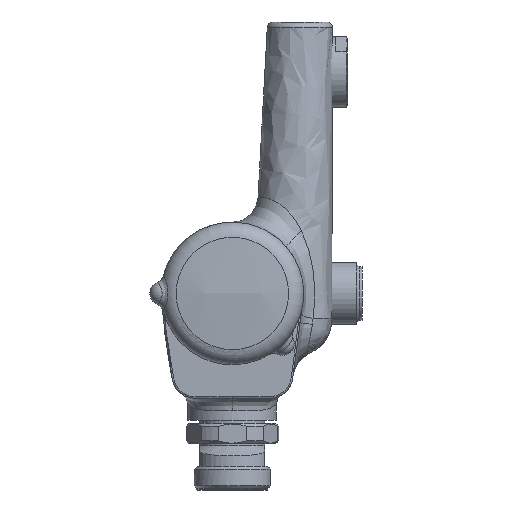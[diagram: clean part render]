
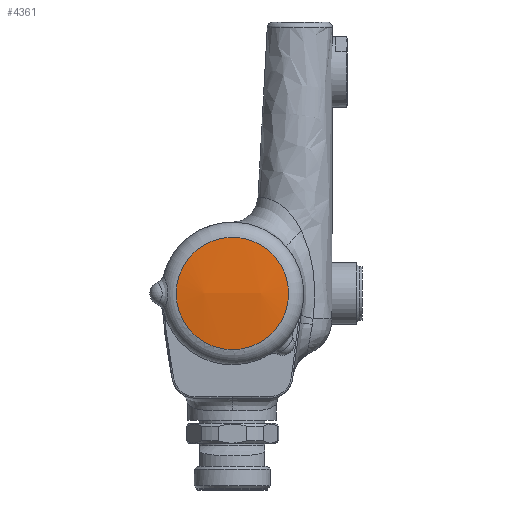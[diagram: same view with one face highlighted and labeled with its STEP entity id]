
A CAD part, left-side view. The second image highlights one B-rep face of the part: STEP entity #4361.
In plain terms, the highlighted spherical face has radius 130 mm.
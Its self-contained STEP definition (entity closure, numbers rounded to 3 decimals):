
#750 = AXIS2_PLACEMENT_3D ( 'NONE', #9176, #11553, #4612 ) ;
#947 = DIRECTION ( 'NONE',  ( -1., 0., 0. ) ) ;
#1291 = EDGE_LOOP ( 'NONE', ( #9754 ) ) ;
#2322 = SPHERICAL_SURFACE ( 'NONE', #750, 130. ) ;
#3015 = CIRCLE ( 'NONE', #6202, 19.051 ) ;
#4361 = ADVANCED_FACE ( 'NONE', ( #6538 ), #2322, .T. ) ;
#4612 = DIRECTION ( 'NONE',  ( 0., -1., 0. ) ) ;
#5691 = CARTESIAN_POINT ( 'NONE',  ( -143.239, -19.051, 58.5 ) ) ;
#6202 = AXIS2_PLACEMENT_3D ( 'NONE', #7960, #947, #9120 ) ;
#6538 = FACE_OUTER_BOUND ( 'NONE', #1291, .T. ) ;
#7209 = EDGE_CURVE ( 'NONE', #13169, #13169, #3015, .T. ) ;
#7960 = CARTESIAN_POINT ( 'NONE',  ( -143.239, 0., 58.5 ) ) ;
#9120 = DIRECTION ( 'NONE',  ( 0., -1., 0. ) ) ;
#9176 = CARTESIAN_POINT ( 'NONE',  ( -14.642, 0., 58.5 ) ) ;
#9754 = ORIENTED_EDGE ( 'NONE', *, *, #7209, .T. ) ;
#11553 = DIRECTION ( 'NONE',  ( 0., 0., -1. ) ) ;
#13169 = VERTEX_POINT ( 'NONE', #5691 ) ;
